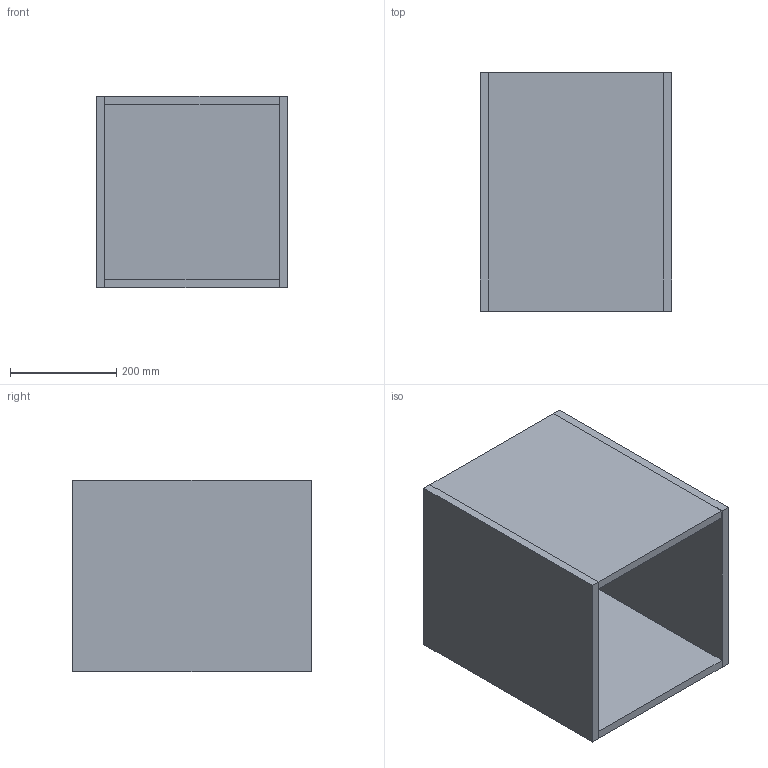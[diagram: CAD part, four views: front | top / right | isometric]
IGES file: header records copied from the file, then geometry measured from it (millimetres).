
Start section: Data from Parasolid IGES Translator 19.0.9, Copyright(c) 2006 Siemens PL M Software. All Rights Reserved.
Global section: file name: noorth-SI-H 36 D 47 W 36_8359.igs; native system: By Siemens PLM Incorporated; preprocessor: XPlus GENERIC/IGES 19.0.9; author: Noname; organization: Noname; date: 20200601.093849; units: metre
Bounding box: 360.01 x 448.06 x 360 mm (x, y, z)
Volume: 10171379.4 mm3; surface area: 1553255.5 mm2
Topology: 5 solids, 5 shells, 30 faces, 60 edges, 40 vertices
Faces by surface type: plane 30
